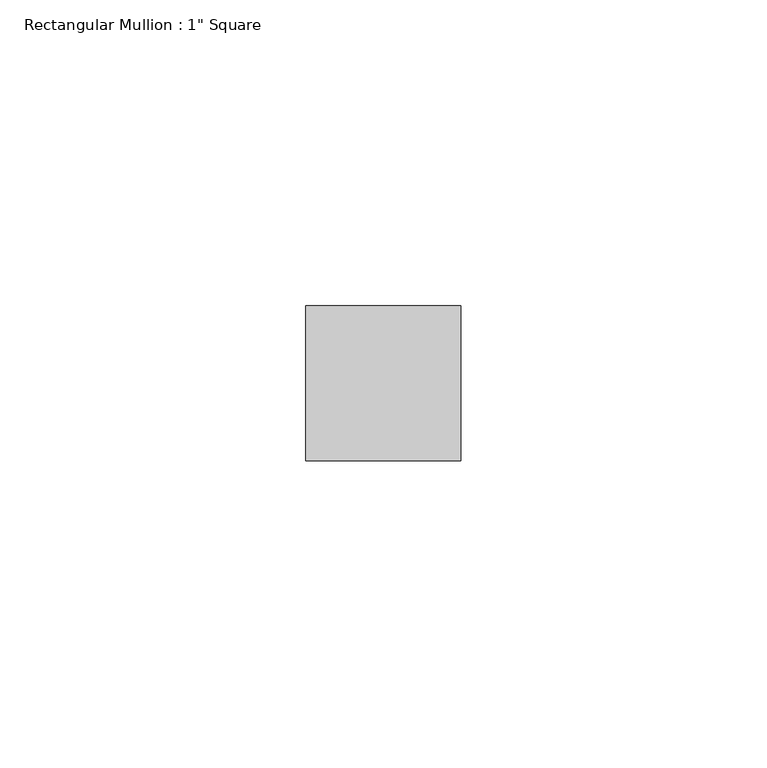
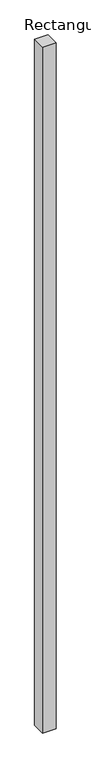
"""IFC4 building model written with IfcOpenShell, lengths in millimetres: member geometry."""

from ifc_helpers import new_model, si_unit, frame, origin, place, context, project, spatial, polyline, outline, extrude, source, transform, mapped, element, save


def member_a3fa0b53(model_context):
    return source(origin(), model_context, "Body", "SweptSolid", [
        extrude(outline(polyline([(0.0, 12.7), (0.0, -12.7), (-25.4, -12.7), (-25.4, 12.7), (0.0, 12.7)])), frame((0.0, 0.0, -1369.3281631), z_axis=(0.0, 0.0, 1.0), x_axis=(1.0, 0.0, 0.0)), (0.0, 0.0, 1.0), 1369.3281631),
    ])


if __name__ == "__main__":
    model = new_model("IFC4")
    model_context = context("Model", 3, world=origin())
    ifc_project = project(units=[si_unit("LENGTHUNIT", "METRE", prefix="MILLI")], contexts=[model_context])
    site = spatial("IfcSite", under=ifc_project)
    building = spatial("IfcBuilding", under=site)
    placement = place(None, origin())
    member_shape = member_a3fa0b53(model_context)
    element("IfcMember", 1, ObjectType="Rectangular Mullion : 1\" Square", at=placement, inside=building, context=model_context, shape_type="MappedRepresentation", body=[
        mapped(member_shape, transform((0.0, 0.0, 0.0), x_axis=(1.0, 0.0, 0.0), y_axis=(0.0, 1.0, 0.0), z_axis=(0.0, 0.0, 1.0))),
    ])
    save(model, "model.ifc")
